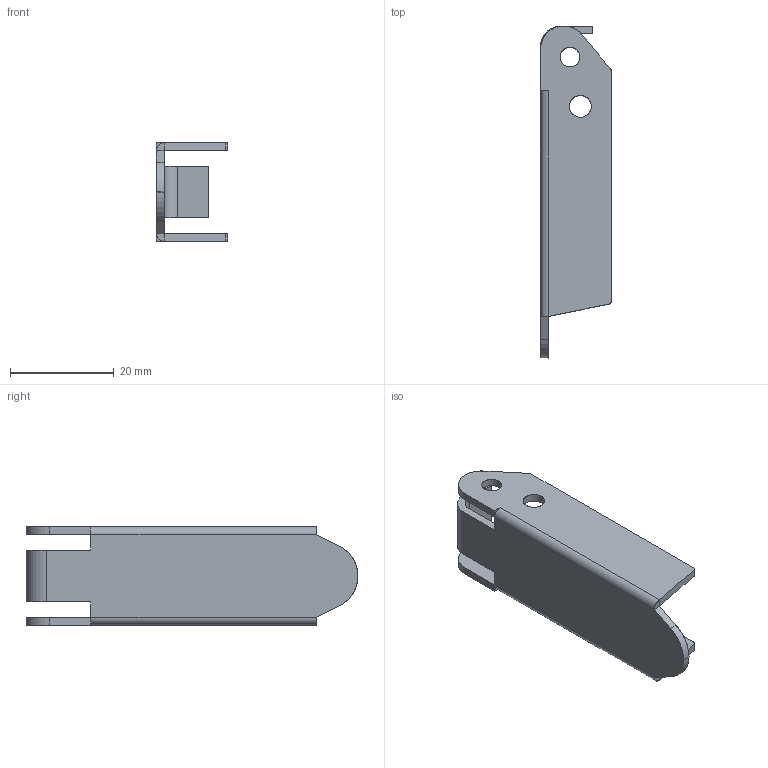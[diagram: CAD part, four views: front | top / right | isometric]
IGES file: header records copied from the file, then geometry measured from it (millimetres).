
Start section: SolidWorks IGES FILE using analytic representation for surfaces
Global section: file name: C:\Documents and Settings\lecoutey\Bureau\GO 543\537.010.00.IGS; native system: SolidWorks 2004 by SolidWorks Corporation; preprocessor: Version 5.3; author: lecoutey; date: 050329.120519; units: millimetre
Bounding box: 13.7 x 64 x 19 mm (x, y, z)
Surface area: 5137 mm2 (no closed solid volume)
Topology: 0 solids, 0 shells, 49 faces, 658 edges, 658 vertices
Faces by surface type: bspline 29, revolution 20
